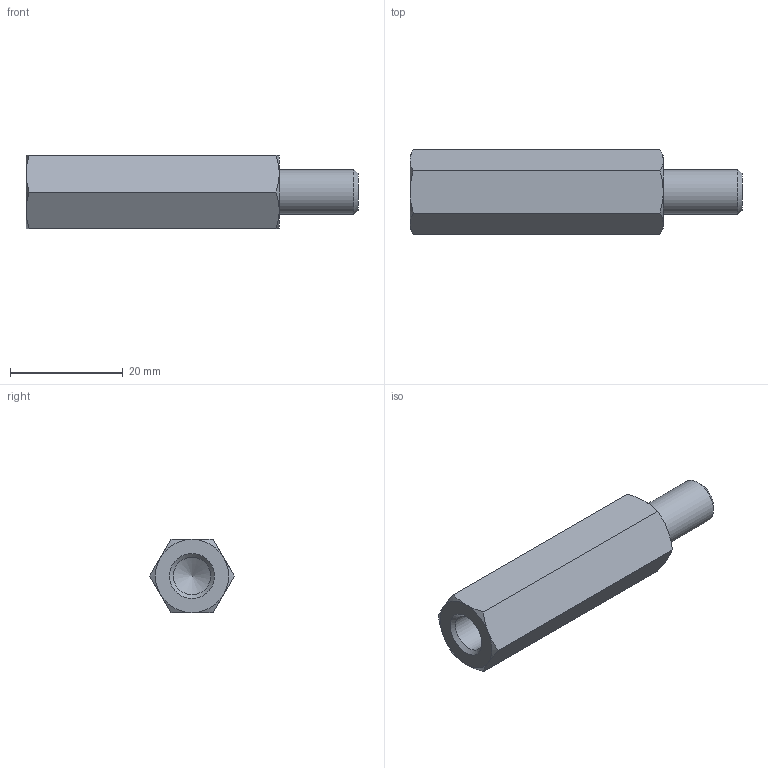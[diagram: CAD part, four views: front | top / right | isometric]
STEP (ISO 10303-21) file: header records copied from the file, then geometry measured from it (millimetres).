
FILE_DESCRIPTION( ( 'STEP AP203' ), '1' );
FILE_NAME( 'C:/Temp/Ganter_Step_05_03_2020/data/3_2/gn6220/gn6220_ni/Stainless Steel-Spacer GN 6220-NI-M8-45-B.stp', '2020-03-13T05:43:18', ( 'License CC BY-ND 4.0' ), ( 'CADENAS' ), ' ', 'PARTsolutions', ' ' );
FILE_SCHEMA( ( 'CONFIG_CONTROL_DESIGN' ) );
Length unit declared in the file: millimetre
Products named in the file (1): _Stainless Steel-Spacer GN 6220-NI-M8-45-B
Bounding box: 59 x 15.01 x 13 mm (x, y, z)
Volume: 6549 mm3; surface area: 3065.2 mm2
Topology: 1 solids, 1 shells, 26 faces, 55 edges, 32 vertices
Faces by surface type: cone 15, plane 9, cylinder 2
Full cylindrical faces by diameter (mm): 6.647 x1, 8 x1
Entity records: 778 total; most frequent: CARTESIAN_POINT 242, DIRECTION 96, ORIENTED_EDGE 96, EDGE_CURVE 48, AXIS2_PLACEMENT_3D 45, EDGE_LOOP 32, VERTEX_POINT 31, FACE_OUTER_BOUND 28
